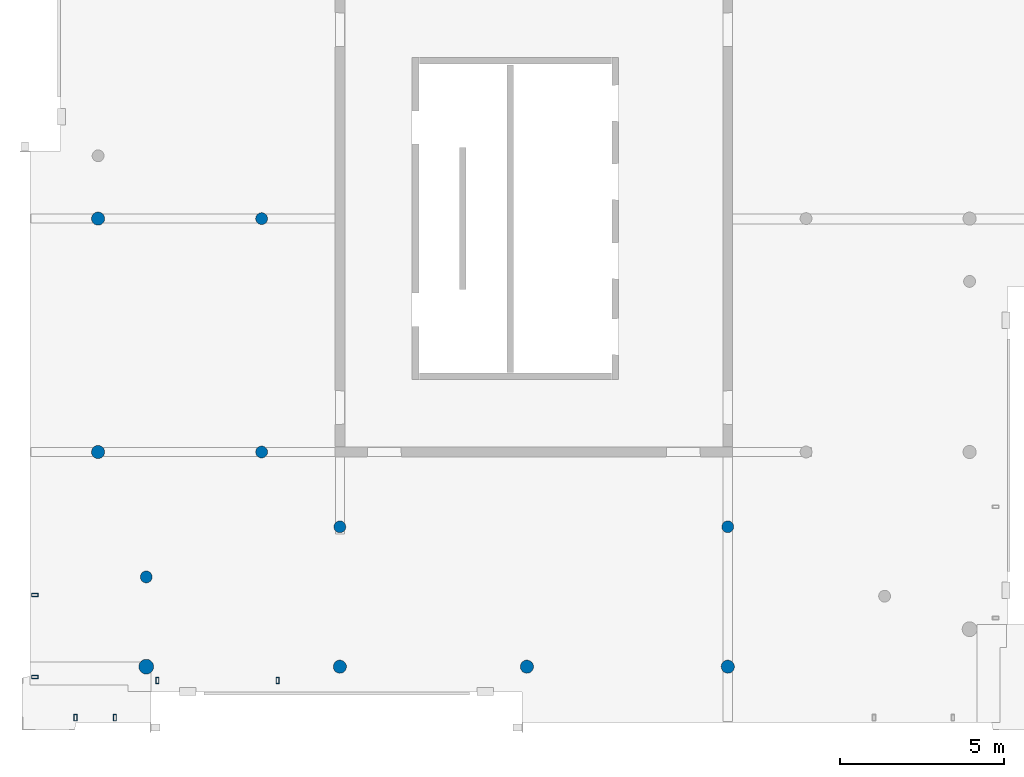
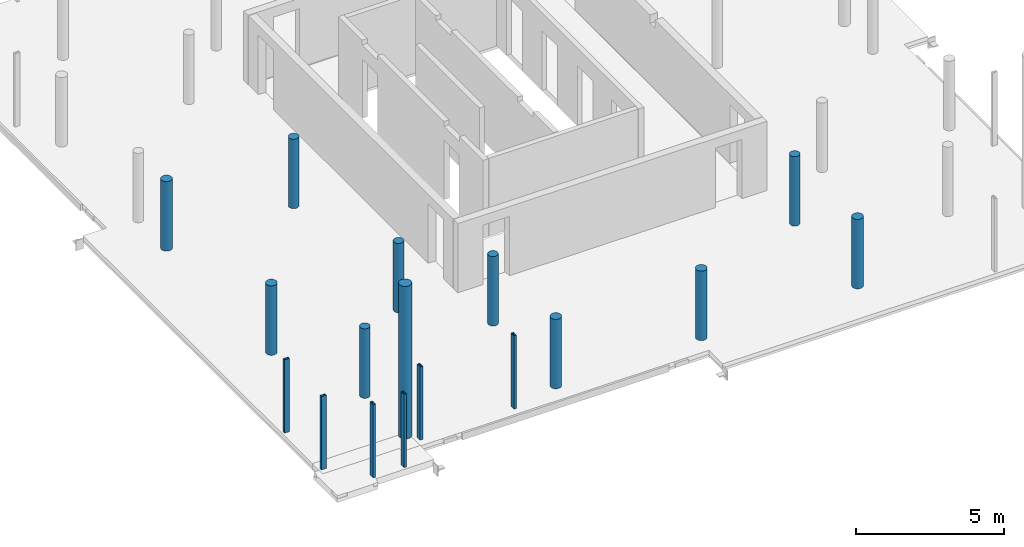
# One storey, part 1 of 7: 17 columns.
"""IFC2X3 building model written with IfcOpenShell, lengths in millimetres."""

from ifc_helpers import new_model, entity, si_unit, converted_unit, derived_unit, direction, frame, frame_2d, origin, origin_2d_with_axis, place, context, subcontext, project, spatial, polyline, circle_curve, parameter, trimmed, segment, composite_curve, circle, outline, extrude, source, transform, mapped, material, type_object, type_shapes, element, save


model = new_model("IFC2X3")

# Units and contexts
model_context = context("Model", 3, precision=0.01, world=origin(), true_north=direction((6.12303176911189e-17, 1.0)))
body_context = subcontext(model_context, "Body", "Model", "MODEL_VIEW")
ifc_project = project(units=[si_unit("LENGTHUNIT", "METRE", prefix="MILLI"), si_unit("AREAUNIT", "SQUARE_METRE"), si_unit("VOLUMEUNIT", "CUBIC_METRE"), converted_unit("PLANEANGLEUNIT", "DEGREE", entity("IfcRatioMeasure", 0.0174532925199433), si_unit("PLANEANGLEUNIT", "RADIAN"), dimensions=[0, 0, 0, 0, 0, 0, 0]), si_unit("MASSUNIT", "GRAM", prefix="KILO"), derived_unit("MASSDENSITYUNIT", [(si_unit("MASSUNIT", "GRAM", prefix="KILO"), 1), (si_unit("LENGTHUNIT", "METRE"), -3)]), si_unit("TIMEUNIT", "SECOND"), si_unit("FREQUENCYUNIT", "HERTZ"), si_unit("THERMODYNAMICTEMPERATUREUNIT", "DEGREE_CELSIUS"), derived_unit("THERMALTRANSMITTANCEUNIT", [(si_unit("MASSUNIT", "GRAM", prefix="KILO"), 1), (si_unit("THERMODYNAMICTEMPERATUREUNIT", "KELVIN"), -1), (si_unit("TIMEUNIT", "SECOND"), -3)]), derived_unit("VOLUMETRICFLOWRATEUNIT", [(si_unit("LENGTHUNIT", "METRE"), 3), (si_unit("TIMEUNIT", "SECOND"), -1)]), si_unit("ELECTRICCURRENTUNIT", "AMPERE"), si_unit("ELECTRICVOLTAGEUNIT", "VOLT"), si_unit("POWERUNIT", "WATT"), si_unit("FORCEUNIT", "NEWTON", prefix="KILO"), si_unit("ILLUMINANCEUNIT", "LUX"), si_unit("LUMINOUSFLUXUNIT", "LUMEN"), si_unit("LUMINOUSINTENSITYUNIT", "CANDELA"), derived_unit("USERDEFINED", [(si_unit("MASSUNIT", "GRAM", prefix="KILO"), -1), (si_unit("LENGTHUNIT", "METRE"), -2), (si_unit("TIMEUNIT", "SECOND"), 3), (si_unit("LUMINOUSFLUXUNIT", "LUMEN"), 1)]), derived_unit("LINEARVELOCITYUNIT", [(si_unit("LENGTHUNIT", "METRE"), 1), (si_unit("TIMEUNIT", "SECOND"), -1)]), si_unit("PRESSUREUNIT", "PASCAL"), derived_unit("USERDEFINED", [(si_unit("LENGTHUNIT", "METRE"), -2), (si_unit("MASSUNIT", "GRAM", prefix="KILO"), 1), (si_unit("TIMEUNIT", "SECOND"), -2)])], contexts=[model_context])

# Site, building, storey
site_placement = place(None, origin())
site = spatial("IfcSite", under=ifc_project, at=site_placement, Name="Default", CompositionType="ELEMENT")
building_placement = place(site_placement, origin())
building = spatial("IfcBuilding", under=site, at=building_placement, Name="niet gebruiken", CompositionType="ELEMENT")
storey_placement = place(building_placement, frame((0.0, 0.0, 165060.0)))
storey = spatial("IfcBuildingStorey", under=building, at=storey_placement, Name="53 drieënvijftigste verdieping", CompositionType="ELEMENT", Elevation=165060.0)

# Columns
ifc_material_1 = material(Name="NLRS_f2_beton prefab")
column_type_1 = type_object("IfcColumnType", Name="ø400", PredefinedType="COLUMN", material=ifc_material_1)
shared_shape_1 = source(origin(), body_context, "Body", "SweptSolid", [
    extrude(circle(Radius=199.999999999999, at=origin_2d_with_axis()), frame((128495.0, 17500.0, 164990.0), z_axis=(0.0, 0.0, 1.0), x_axis=(0.0, -1.0, 0.0)), (0.0, 0.0, 1.0), 2869.99999999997),
])
type_shapes(column_type_1, [shared_shape_1])
column_1_placement = place(storey_placement, frame((0.0, 0.0, -165060.0)))
element("IfcColumn", 1, at=column_1_placement, inside=storey, type_object=column_type_1, material=ifc_material_1, Name="NLRS_28. kolom rond_gen:ø400", ObjectType="ø400", context=body_context, shape_type="MappedRepresentation", body=[
    mapped(shared_shape_1, transform((0.0, 0.0, 0.0), scale=1.0)),
])
column_type_2 = type_object("IfcColumnType", Name="ø360", PredefinedType="COLUMN", material=ifc_material_1)
shared_shape_2 = source(origin(), body_context, "Body", "SweptSolid", [
    extrude(circle(Radius=180.0, at=origin_2d_with_axis()), frame((133470.0, 17500.0, 164990.0), z_axis=(0.0, 0.0, 1.0), x_axis=(0.0, -1.0, 0.0)), (0.0, 0.0, 1.0), 2869.99999999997),
])
type_shapes(column_type_2, [shared_shape_2])
column_2_placement = place(storey_placement, frame((0.0, 0.0, -165060.0)))
element("IfcColumn", 2, at=column_2_placement, inside=storey, type_object=column_type_2, material=ifc_material_1, Name="NLRS_28. kolom rond_gen:ø360", ObjectType="ø360", context=body_context, shape_type="MappedRepresentation", body=[
    mapped(shared_shape_2, transform((0.0, 0.0, 0.0), scale=1.0)),
])
column_type_3 = type_object("IfcColumnType", Name="ø360", PredefinedType="COLUMN", material=ifc_material_1)
shared_shape_3 = source(origin(), body_context, "Body", "SweptSolid", [
    extrude(circle(Radius=180.0, at=origin_2d_with_axis()), frame((147650.0, 8125.0, 164990.0), z_axis=(0.0, 0.0, 1.0), x_axis=(0.0, -1.0, 0.0)), (0.0, 0.0, 1.0), 2869.99999999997),
])
type_shapes(column_type_3, [shared_shape_3])
column_3_placement = place(storey_placement, frame((0.0, 0.0, -165060.0)))
element("IfcColumn", 3, at=column_3_placement, inside=storey, type_object=column_type_3, material=ifc_material_1, Name="NLRS_28. kolom rond_gen:ø360", ObjectType="ø360", context=body_context, shape_type="MappedRepresentation", body=[
    mapped(shared_shape_3, transform((0.0, 0.0, 0.0), scale=1.0)),
])
column_type_4 = type_object("IfcColumnType", Name="ø400", PredefinedType="COLUMN", material=ifc_material_1)
shared_shape_4 = source(origin(), body_context, "Body", "SweptSolid", [
    extrude(circle(Radius=199.999999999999, at=frame_2d((-5.41433564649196e-13, 0.0), x_axis=(1.0, 0.0))), frame((147650.0, 3870.0, 164990.0), z_axis=(0.0, 0.0, 1.0), x_axis=(0.0, -1.0, 0.0)), (0.0, 0.0, 1.0), 2869.99999999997),
])
type_shapes(column_type_4, [shared_shape_4])
column_4_placement = place(storey_placement, frame((0.0, 0.0, -165060.0)))
element("IfcColumn", 4, at=column_4_placement, inside=storey, type_object=column_type_4, material=ifc_material_1, Name="NLRS_28. kolom rond_gen:ø400", ObjectType="ø400", context=body_context, shape_type="MappedRepresentation", body=[
    mapped(shared_shape_4, transform((0.0, 0.0, 0.0), scale=1.0)),
])
column_type_5 = type_object("IfcColumnType", Name="ø400", PredefinedType="COLUMN", material=ifc_material_1)
shared_shape_5 = source(origin(), body_context, "Body", "SweptSolid", [
    extrude(circle(Radius=199.999999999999, at=frame_2d((-5.41433564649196e-13, 0.0), x_axis=(1.0, 0.0))), frame((141540.0, 3870.0, 164990.0), z_axis=(0.0, 0.0, 1.0), x_axis=(0.0, -1.0, 0.0)), (0.0, 0.0, 1.0), 2869.99999999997),
])
type_shapes(column_type_5, [shared_shape_5])
column_5_placement = place(storey_placement, frame((0.0, 0.0, -165060.0)))
element("IfcColumn", 5, at=column_5_placement, inside=storey, type_object=column_type_5, material=ifc_material_1, Name="NLRS_28. kolom rond_gen:ø400", ObjectType="ø400", context=body_context, shape_type="MappedRepresentation", body=[
    mapped(shared_shape_5, transform((0.0, 0.0, 0.0), scale=1.0)),
])
column_type_6 = type_object("IfcColumnType", Name="ø360", PredefinedType="COLUMN", material=ifc_material_1)
shared_shape_6 = source(origin(), body_context, "Body", "SweptSolid", [
    extrude(circle(Radius=180.0, at=origin_2d_with_axis()), frame((135850.0, 8125.0, 164990.0), z_axis=(0.0, 0.0, 1.0), x_axis=(0.0, -1.0, 0.0)), (0.0, 0.0, 1.0), 2869.99999999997),
])
type_shapes(column_type_6, [shared_shape_6])
column_6_placement = place(storey_placement, frame((0.0, 0.0, -165060.0)))
element("IfcColumn", 6, at=column_6_placement, inside=storey, type_object=column_type_6, material=ifc_material_1, Name="NLRS_28. kolom rond_gen:ø360", ObjectType="ø360", context=body_context, shape_type="MappedRepresentation", body=[
    mapped(shared_shape_6, transform((0.0, 0.0, 0.0), scale=1.0)),
])
column_type_7 = type_object("IfcColumnType", Name="ø400", PredefinedType="COLUMN", material=ifc_material_1)
shared_shape_7 = source(origin(), body_context, "Body", "SweptSolid", [
    extrude(circle(Radius=199.999999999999, at=frame_2d((-5.41433564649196e-13, 0.0), x_axis=(1.0, 0.0))), frame((135850.0, 3870.0, 164990.0), z_axis=(0.0, 0.0, 1.0), x_axis=(0.0, -1.0, 0.0)), (0.0, 0.0, 1.0), 2869.99999999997),
])
type_shapes(column_type_7, [shared_shape_7])
column_7_placement = place(storey_placement, frame((0.0, 0.0, -165060.0)))
element("IfcColumn", 7, at=column_7_placement, inside=storey, type_object=column_type_7, material=ifc_material_1, Name="NLRS_28. kolom rond_gen:ø400", ObjectType="ø400", context=body_context, shape_type="MappedRepresentation", body=[
    mapped(shared_shape_7, transform((0.0, 0.0, 0.0), scale=1.0)),
])
column_type_8 = type_object("IfcColumnType", Name="ø450", PredefinedType="COLUMN", material=ifc_material_1)
shared_shape_8 = source(origin(), body_context, "Body", "SweptSolid", [
    extrude(circle(Radius=224.999999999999, at=frame_2d((-5.41433564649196e-13, 0.0), x_axis=(1.0, 0.0))), frame((129960.0, 3870.0, 164990.0), z_axis=(0.0, 0.0, 1.0), x_axis=(0.0, -1.0, 0.0)), (0.0, 0.0, 1.0), 6309.99999999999),
])
type_shapes(column_type_8, [shared_shape_8])
column_8_placement = place(storey_placement, frame((0.0, 0.0, -165060.0)))
element("IfcColumn", 8, at=column_8_placement, inside=storey, type_object=column_type_8, material=ifc_material_1, Name="NLRS_28. kolom rond_gen:ø450", ObjectType="ø450", context=body_context, shape_type="MappedRepresentation", body=[
    mapped(shared_shape_8, transform((0.0, 0.0, 0.0), scale=1.0)),
])
column_type_9 = type_object("IfcColumnType", Name="ø360", PredefinedType="COLUMN", material=ifc_material_1)
shared_shape_9 = source(origin(), body_context, "Body", "SweptSolid", [
    extrude(circle(Radius=180.0, at=origin_2d_with_axis()), frame((129960.0, 6600.0, 164990.0), z_axis=(0.0, 0.0, 1.0), x_axis=(0.0, -1.0, 0.0)), (0.0, 0.0, 1.0), 2869.99999999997),
])
type_shapes(column_type_9, [shared_shape_9])
column_9_placement = place(storey_placement, frame((0.0, 0.0, -165060.0)))
element("IfcColumn", 9, at=column_9_placement, inside=storey, type_object=column_type_9, material=ifc_material_1, Name="NLRS_28. kolom rond_gen:ø360", ObjectType="ø360", context=body_context, shape_type="MappedRepresentation", body=[
    mapped(shared_shape_9, transform((0.0, 0.0, 0.0), scale=1.0)),
])
column_type_10 = type_object("IfcColumnType", Name="ø360", PredefinedType="COLUMN", material=ifc_material_1)
shared_shape_10 = source(origin(), body_context, "Body", "SweptSolid", [
    extrude(circle(Radius=180.0, at=origin_2d_with_axis()), frame((133470.0, 10400.0, 164990.0), z_axis=(0.0, 0.0, 1.0), x_axis=(0.0, -1.0, 0.0)), (0.0, 0.0, 1.0), 2869.99999999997),
])
type_shapes(column_type_10, [shared_shape_10])
column_10_placement = place(storey_placement, frame((0.0, 0.0, -165060.0)))
element("IfcColumn", 10, at=column_10_placement, inside=storey, type_object=column_type_10, material=ifc_material_1, Name="NLRS_28. kolom rond_gen:ø360", ObjectType="ø360", context=body_context, shape_type="MappedRepresentation", body=[
    mapped(shared_shape_10, transform((0.0, 0.0, 0.0), scale=1.0)),
])
column_type_11 = type_object("IfcColumnType", Name="ø400", PredefinedType="COLUMN", material=ifc_material_1)
shared_shape_11 = source(origin(), body_context, "Body", "SweptSolid", [
    extrude(circle(Radius=199.999999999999, at=origin_2d_with_axis()), frame((128495.0, 10400.0, 164990.0), z_axis=(0.0, 0.0, 1.0), x_axis=(0.0, -1.0, 0.0)), (0.0, 0.0, 1.0), 2869.99999999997),
])
type_shapes(column_type_11, [shared_shape_11])
column_11_placement = place(storey_placement, frame((0.0, 0.0, -165060.0)))
element("IfcColumn", 11, at=column_11_placement, inside=storey, type_object=column_type_11, material=ifc_material_1, Name="NLRS_28. kolom rond_gen:ø400", ObjectType="ø400", context=body_context, shape_type="MappedRepresentation", body=[
    mapped(shared_shape_11, transform((0.0, 0.0, 0.0), scale=1.0)),
])
ifc_material_2 = material(Name="NLRS_h2_staal")
column_type_12 = type_object("IfcColumnType", Name="kolom buisprofiel rechthoekig RHSH_200x100x10", PredefinedType="COLUMN", material=ifc_material_2)
shared_shape_12 = source(origin(), body_context, "Body", "SweptSolid", [
    extrude(outline(polyline([(-100.0, -50.0), (100.0, -50.0), (100.0, 50.0), (-100.0, 50.0), (-100.0, -50.0)]), holes=[composite_curve([segment(trimmed(circle_curve(frame_2d((-80.0, -30.0), x_axis=(0.0, 1.0)), 10.0), [parameter(90.0000000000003)], [parameter(180.0)], True, "PARAMETER"), False, "CONTINUOUS"), segment(polyline([(-90.0, -30.0), (-90.0, 30.0)]), True, "CONTINUOUS"), segment(trimmed(circle_curve(frame_2d((-80.0, 30.0), x_axis=(0.0, 1.0)), 10.0), [parameter(360.0)], [parameter(89.9999999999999)], True, "PARAMETER"), False, "CONTINUOUS"), segment(polyline([(-80.0, 40.0), (80.0, 40.0)]), True, "CONTINUOUS"), segment(trimmed(circle_curve(frame_2d((80.0, 30.0), x_axis=(0.0, 1.0)), 10.0), [parameter(270.0)], [parameter(360.0)], True, "PARAMETER"), False, "CONTINUOUS"), segment(polyline([(90.0, 30.0), (90.0, -30.0)]), True, "CONTINUOUS"), segment(trimmed(circle_curve(frame_2d((80.0, -30.0), x_axis=(0.0, 1.0)), 10.0), [parameter(180.0)], [parameter(270.0)], True, "PARAMETER"), False, "CONTINUOUS"), segment(polyline([(80.0, -40.0), (-80.0, -40.0)]), True, "CONTINUOUS")], self_intersect=False)]), frame((127805.0, 2320.0, 165000.0), z_axis=(0.0, 0.0, 1.0), x_axis=(0.0, -1.0, 0.0)), (0.0, 0.0, 1.0), 3029.69999999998),
])
type_shapes(column_type_12, [shared_shape_12])
column_12_placement = place(storey_placement, frame((0.0, 0.0, -165060.0)))
element("IfcColumn", 12, at=column_12_placement, inside=storey, type_object=column_type_12, material=ifc_material_2, Name="NLRS_28.11_SCO_TLB_stalen kolom buisprofiel rechthoekig_gen:kolom buisprofiel rechthoekig RHSH_200x100x10", ObjectType="kolom buisprofiel rechthoekig RHSH_200x100x10", context=body_context, shape_type="MappedRepresentation", body=[
    mapped(shared_shape_12, transform((0.0, 0.0, 0.0), scale=1.0)),
])
column_type_13 = type_object("IfcColumnType", Name="kolom buisprofiel rechthoekig RHSH_200x100x10", PredefinedType="COLUMN", material=ifc_material_2)
shared_shape_13 = source(origin(), body_context, "Body", "SweptSolid", [
    extrude(outline(polyline([(-100.0, -50.0), (100.0, -50.0), (100.0, 50.0), (-100.0, 50.0), (-100.0, -50.0)]), holes=[composite_curve([segment(trimmed(circle_curve(frame_2d((-80.0, -30.0), x_axis=(0.0, 1.0)), 10.0), [parameter(90.0000000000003)], [parameter(180.0)], True, "PARAMETER"), False, "CONTINUOUS"), segment(polyline([(-90.0, -30.0), (-90.0, 30.0)]), True, "CONTINUOUS"), segment(trimmed(circle_curve(frame_2d((-80.0, 30.0), x_axis=(0.0, 1.0)), 10.0), [parameter(360.0)], [parameter(89.9999999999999)], True, "PARAMETER"), False, "CONTINUOUS"), segment(polyline([(-80.0, 40.0), (80.0, 40.0)]), True, "CONTINUOUS"), segment(trimmed(circle_curve(frame_2d((80.0, 30.0), x_axis=(0.0, 1.0)), 10.0), [parameter(270.0)], [parameter(360.0)], True, "PARAMETER"), False, "CONTINUOUS"), segment(polyline([(90.0, 30.0), (90.0, -30.0)]), True, "CONTINUOUS"), segment(trimmed(circle_curve(frame_2d((80.0, -30.0), x_axis=(0.0, 1.0)), 10.0), [parameter(180.0)], [parameter(270.0)], True, "PARAMETER"), False, "CONTINUOUS"), segment(polyline([(80.0, -40.0), (-80.0, -40.0)]), True, "CONTINUOUS")], self_intersect=False)]), frame((129005.0, 2320.0, 165000.0), z_axis=(0.0, 0.0, 1.0), x_axis=(0.0, -1.0, 0.0)), (0.0, 0.0, 1.0), 3029.69999999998),
])
type_shapes(column_type_13, [shared_shape_13])
column_13_placement = place(storey_placement, frame((0.0, 0.0, -165060.0)))
element("IfcColumn", 13, at=column_13_placement, inside=storey, type_object=column_type_13, material=ifc_material_2, Name="NLRS_28.11_SCO_TLB_stalen kolom buisprofiel rechthoekig_gen:kolom buisprofiel rechthoekig RHSH_200x100x10", ObjectType="kolom buisprofiel rechthoekig RHSH_200x100x10", context=body_context, shape_type="MappedRepresentation", body=[
    mapped(shared_shape_13, transform((0.0, 0.0, 0.0), scale=1.0)),
])
column_type_14 = type_object("IfcColumnType", Name="kolom buisprofiel rechthoekig RHSH_200x100x10", PredefinedType="COLUMN", material=ifc_material_2)
shared_shape_14 = source(origin(), body_context, "Body", "SweptSolid", [
    extrude(outline(polyline([(-100.0, -50.0), (100.0, -50.0), (100.0, 50.0), (-100.0, 50.0), (-100.0, -50.0)]), holes=[composite_curve([segment(trimmed(circle_curve(frame_2d((-80.0, -30.0), x_axis=(0.0, 1.0)), 10.0), [parameter(90.0000000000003)], [parameter(180.0)], True, "PARAMETER"), False, "CONTINUOUS"), segment(polyline([(-90.0, -30.0), (-90.0, 30.0)]), True, "CONTINUOUS"), segment(trimmed(circle_curve(frame_2d((-80.0, 30.0), x_axis=(0.0, 1.0)), 10.0), [parameter(360.0)], [parameter(89.9999999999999)], True, "PARAMETER"), False, "CONTINUOUS"), segment(polyline([(-80.0, 40.0), (80.0, 40.0)]), True, "CONTINUOUS"), segment(trimmed(circle_curve(frame_2d((80.0, 30.0), x_axis=(0.0, 1.0)), 10.0), [parameter(270.0)], [parameter(360.0)], True, "PARAMETER"), False, "CONTINUOUS"), segment(polyline([(90.0, 30.0), (90.0, -30.0)]), True, "CONTINUOUS"), segment(trimmed(circle_curve(frame_2d((80.0, -30.0), x_axis=(0.0, 1.0)), 10.0), [parameter(180.0)], [parameter(270.0)], True, "PARAMETER"), False, "CONTINUOUS"), segment(polyline([(80.0, -40.0), (-80.0, -40.0)]), True, "CONTINUOUS")], self_intersect=False)]), frame((126570.0, 3555.0, 165000.0), z_axis=(0.0, 0.0, 1.0), x_axis=(-1.0, 0.0, 0.0)), (0.0, 0.0, 1.0), 3029.69999999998),
])
type_shapes(column_type_14, [shared_shape_14])
column_14_placement = place(storey_placement, frame((0.0, 0.0, -165060.0)))
element("IfcColumn", 14, at=column_14_placement, inside=storey, type_object=column_type_14, material=ifc_material_2, Name="NLRS_28.11_SCO_TLB_stalen kolom buisprofiel rechthoekig_gen:kolom buisprofiel rechthoekig RHSH_200x100x10", ObjectType="kolom buisprofiel rechthoekig RHSH_200x100x10", context=body_context, shape_type="MappedRepresentation", body=[
    mapped(shared_shape_14, transform((0.0, 0.0, 0.0), scale=1.0)),
])
column_type_15 = type_object("IfcColumnType", Name="kolom buisprofiel rechthoekig RHSH_200x100x10", PredefinedType="COLUMN", material=ifc_material_2)
shared_shape_15 = source(origin(), body_context, "Body", "SweptSolid", [
    extrude(outline(polyline([(-100.0, -50.0), (100.0, -50.0), (100.0, 50.0), (-100.0, 50.0), (-100.0, -50.0)]), holes=[composite_curve([segment(trimmed(circle_curve(frame_2d((-80.0, -30.0), x_axis=(0.0, 1.0)), 10.0), [parameter(90.0000000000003)], [parameter(180.0)], True, "PARAMETER"), False, "CONTINUOUS"), segment(polyline([(-90.0, -30.0), (-90.0, 30.0)]), True, "CONTINUOUS"), segment(trimmed(circle_curve(frame_2d((-80.0, 30.0), x_axis=(0.0, 1.0)), 10.0), [parameter(360.0)], [parameter(89.9999999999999)], True, "PARAMETER"), False, "CONTINUOUS"), segment(polyline([(-80.0, 40.0), (80.0, 40.0)]), True, "CONTINUOUS"), segment(trimmed(circle_curve(frame_2d((80.0, 30.0), x_axis=(0.0, 1.0)), 10.0), [parameter(270.0)], [parameter(360.0)], True, "PARAMETER"), False, "CONTINUOUS"), segment(polyline([(90.0, 30.0), (90.0, -30.0)]), True, "CONTINUOUS"), segment(trimmed(circle_curve(frame_2d((80.0, -30.0), x_axis=(0.0, 1.0)), 10.0), [parameter(180.0)], [parameter(270.0)], True, "PARAMETER"), False, "CONTINUOUS"), segment(polyline([(80.0, -40.0), (-80.0, -40.0)]), True, "CONTINUOUS")], self_intersect=False)]), frame((126570.0, 6055.0, 165000.0), z_axis=(0.0, 0.0, 1.0), x_axis=(-1.0, 0.0, 0.0)), (0.0, 0.0, 1.0), 3029.69999999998),
])
type_shapes(column_type_15, [shared_shape_15])
column_15_placement = place(storey_placement, frame((0.0, 0.0, -165060.0)))
element("IfcColumn", 15, at=column_15_placement, inside=storey, type_object=column_type_15, material=ifc_material_2, Name="NLRS_28.11_SCO_TLB_stalen kolom buisprofiel rechthoekig_gen:kolom buisprofiel rechthoekig RHSH_200x100x10", ObjectType="kolom buisprofiel rechthoekig RHSH_200x100x10", context=body_context, shape_type="MappedRepresentation", body=[
    mapped(shared_shape_15, transform((0.0, 0.0, 0.0), scale=1.0)),
])
column_type_16 = type_object("IfcColumnType", Name="kolom buisprofiel rechthoekig RHSH_200x100x10", PredefinedType="COLUMN", material=ifc_material_2)
shared_shape_16 = source(origin(), body_context, "Body", "SweptSolid", [
    extrude(outline(polyline([(-100.0, -50.0), (100.0, -50.0), (100.0, 50.0), (-100.0, 50.0), (-100.0, -50.0)]), holes=[composite_curve([segment(trimmed(circle_curve(frame_2d((-80.0, -30.0), x_axis=(0.0, 1.0)), 10.0), [parameter(90.0000000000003)], [parameter(180.0)], True, "PARAMETER"), False, "CONTINUOUS"), segment(polyline([(-90.0, -30.0), (-90.0, 30.0)]), True, "CONTINUOUS"), segment(trimmed(circle_curve(frame_2d((-80.0, 30.0), x_axis=(0.0, 1.0)), 10.0), [parameter(360.0)], [parameter(89.9999999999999)], True, "PARAMETER"), False, "CONTINUOUS"), segment(polyline([(-80.0, 40.0), (80.0, 40.0)]), True, "CONTINUOUS"), segment(trimmed(circle_curve(frame_2d((80.0, 30.0), x_axis=(0.0, 1.0)), 10.0), [parameter(270.0)], [parameter(360.0)], True, "PARAMETER"), False, "CONTINUOUS"), segment(polyline([(90.0, 30.0), (90.0, -30.0)]), True, "CONTINUOUS"), segment(trimmed(circle_curve(frame_2d((80.0, -30.0), x_axis=(0.0, 1.0)), 10.0), [parameter(180.0)], [parameter(270.0)], True, "PARAMETER"), False, "CONTINUOUS"), segment(polyline([(80.0, -40.0), (-80.0, -40.0)]), True, "CONTINUOUS")], self_intersect=False)]), frame((130298.0, 3451.00145776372, 165000.0), z_axis=(0.0, 0.0, 1.0), x_axis=(0.0, -1.0, 0.0)), (0.0, 0.0, 1.0), 3029.69999999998),
])
type_shapes(column_type_16, [shared_shape_16])
column_16_placement = place(storey_placement, frame((0.0, 0.0, -165060.0)))
element("IfcColumn", 16, at=column_16_placement, inside=storey, type_object=column_type_16, material=ifc_material_2, Name="NLRS_28.11_SCO_TLB_stalen kolom buisprofiel rechthoekig_gen:kolom buisprofiel rechthoekig RHSH_200x100x10", ObjectType="kolom buisprofiel rechthoekig RHSH_200x100x10", context=body_context, shape_type="MappedRepresentation", body=[
    mapped(shared_shape_16, transform((0.0, 0.0, 0.0), scale=1.0)),
])
column_type_17 = type_object("IfcColumnType", Name="kolom buisprofiel rechthoekig RHSH_200x100x10", PredefinedType="COLUMN", material=ifc_material_2)
shared_shape_17 = source(origin(), body_context, "Body", "SweptSolid", [
    extrude(outline(polyline([(-100.0, -50.0), (100.0, -50.0), (100.0, 50.0), (-100.0, 50.0), (-100.0, -50.0)]), holes=[composite_curve([segment(trimmed(circle_curve(frame_2d((-80.0, -30.0), x_axis=(0.0, 1.0)), 10.0), [parameter(90.0000000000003)], [parameter(180.0)], True, "PARAMETER"), False, "CONTINUOUS"), segment(polyline([(-90.0, -30.0), (-90.0, 30.0)]), True, "CONTINUOUS"), segment(trimmed(circle_curve(frame_2d((-80.0, 30.0), x_axis=(0.0, 1.0)), 10.0), [parameter(360.0)], [parameter(89.9999999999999)], True, "PARAMETER"), False, "CONTINUOUS"), segment(polyline([(-80.0, 40.0), (80.0, 40.0)]), True, "CONTINUOUS"), segment(trimmed(circle_curve(frame_2d((80.0, 30.0), x_axis=(0.0, 1.0)), 10.0), [parameter(270.0)], [parameter(360.0)], True, "PARAMETER"), False, "CONTINUOUS"), segment(polyline([(90.0, 30.0), (90.0, -30.0)]), True, "CONTINUOUS"), segment(trimmed(circle_curve(frame_2d((80.0, -30.0), x_axis=(0.0, 1.0)), 10.0), [parameter(180.0)], [parameter(270.0)], True, "PARAMETER"), False, "CONTINUOUS"), segment(polyline([(80.0, -40.0), (-80.0, -40.0)]), True, "CONTINUOUS")], self_intersect=False)]), frame((133958.0, 3451.0, 165000.0), z_axis=(0.0, 0.0, 1.0), x_axis=(0.0, -1.0, 0.0)), (0.0, 0.0, 1.0), 3029.69999999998),
])
type_shapes(column_type_17, [shared_shape_17])
column_17_placement = place(storey_placement, frame((0.0, 0.0, -165060.0)))
element("IfcColumn", 17, at=column_17_placement, inside=storey, type_object=column_type_17, material=ifc_material_2, Name="NLRS_28.11_SCO_TLB_stalen kolom buisprofiel rechthoekig_gen:kolom buisprofiel rechthoekig RHSH_200x100x10", ObjectType="kolom buisprofiel rechthoekig RHSH_200x100x10", context=body_context, shape_type="MappedRepresentation", body=[
    mapped(shared_shape_17, transform((0.0, 0.0, 0.0), scale=1.0)),
])

save(model, "model.ifc")
